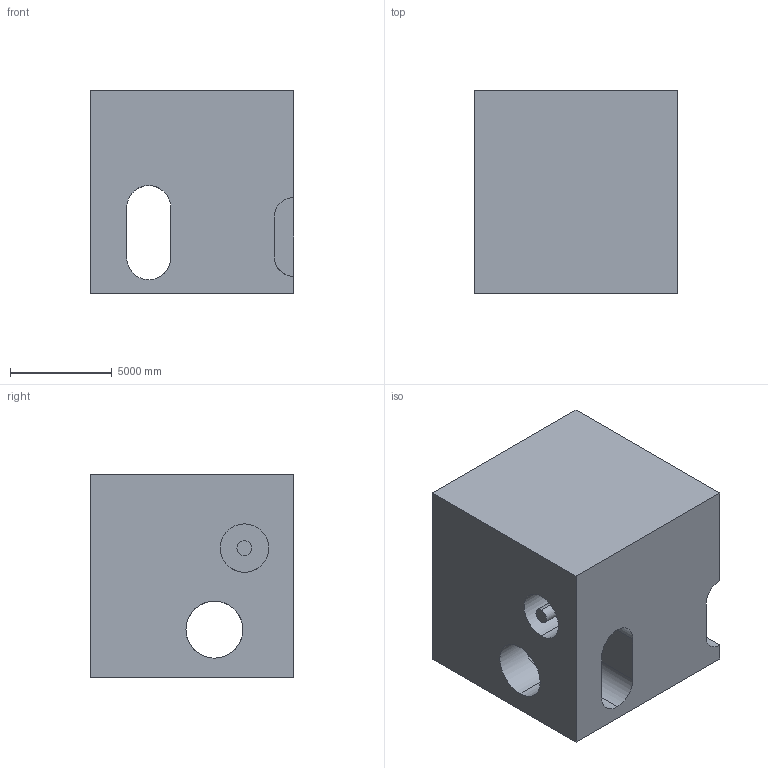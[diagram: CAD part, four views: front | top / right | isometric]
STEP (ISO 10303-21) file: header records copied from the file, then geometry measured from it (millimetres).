
FILE_DESCRIPTION (( 'STEP AP203' ), '1' );
FILE_NAME ('1442.STEP', '2022-08-18T14:30:05', ( 'user' ), ( '' ), 'SwSTEP 2.0', 'SolidWorks 2021', '' );
FILE_SCHEMA (( 'CONFIG_CONTROL_DESIGN' ));
Length unit declared in the file: centimetre
Products named in the file (1): 1442
Bounding box: 10000 x 10000 x 10000 mm (x, y, z)
Volume: 814599160658.9 mm3; surface area: 815243639 mm2
Topology: 1 solids, 1 shells, 31 faces, 87 edges, 58 vertices
Faces by surface type: cylinder 17, plane 14
Entity records: 1678 total; most frequent: CARTESIAN_POINT 763, DIRECTION 177, ORIENTED_EDGE 174, EDGE_CURVE 87, AXIS2_PLACEMENT_3D 66, VERTEX_POINT 58, LINE 45, VECTOR 45
